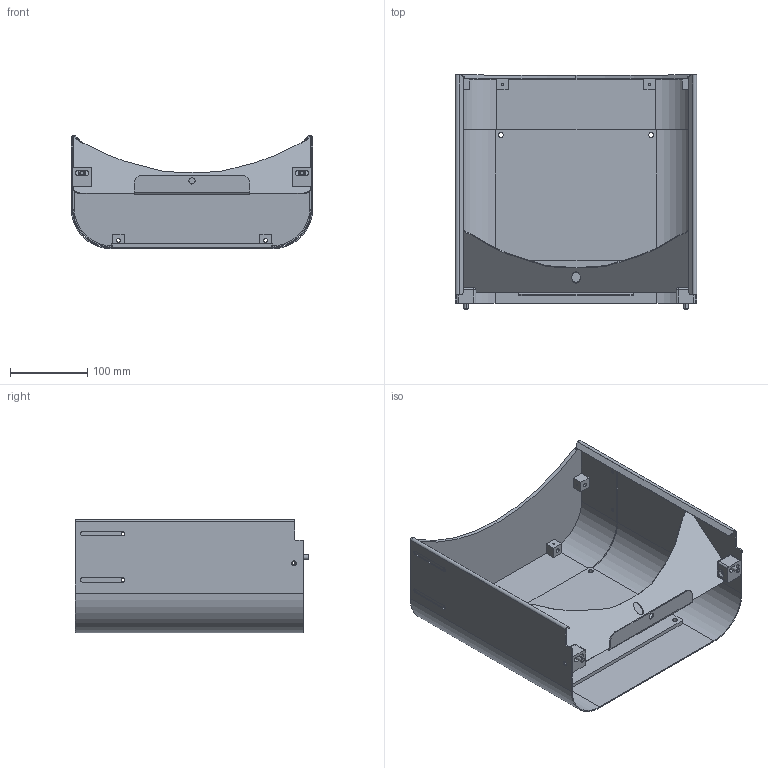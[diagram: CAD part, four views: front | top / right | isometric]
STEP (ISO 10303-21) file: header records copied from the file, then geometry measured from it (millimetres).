
FILE_DESCRIPTION (( 'STEP AP214' ), '1' );
FILE_NAME ('GM000643.STEP', '2021-08-24T13:18:49', ( '' ), ( '' ), 'SwSTEP 2.0', 'SolidWorks 2020', '' );
FILE_SCHEMA (( 'AUTOMOTIVE_DESIGN' ));
Length unit declared in the file: millimetre
Products named in the file (8): PD002786; PD002785; PD002784; CM000374; PD002783; PD002782; GM000643; PD002604
Assembly tree (11 placements, depth 2):
  GM000643
    PD002786
    PD002785
    CM000374  x2
    PD002784
    PD002783
    PD002782
    PD002604  x4
Bounding box: 313 x 303.5 x 147.25 mm (x, y, z)
Volume: 676863.8 mm3; surface area: 575149.7 mm2
Topology: 15 solids, 15 shells, 529 faces, 1285 edges, 774 vertices
Faces by surface type: cone 180, plane 160, cylinder 156, bspline 33
Entity records: 11767 total; most frequent: CARTESIAN_POINT 2382, DIRECTION 1924, ORIENTED_EDGE 1752, EDGE_CURVE 876, AXIS2_PLACEMENT_3D 728, VERTEX_POINT 536, VECTOR 468, LINE 468
